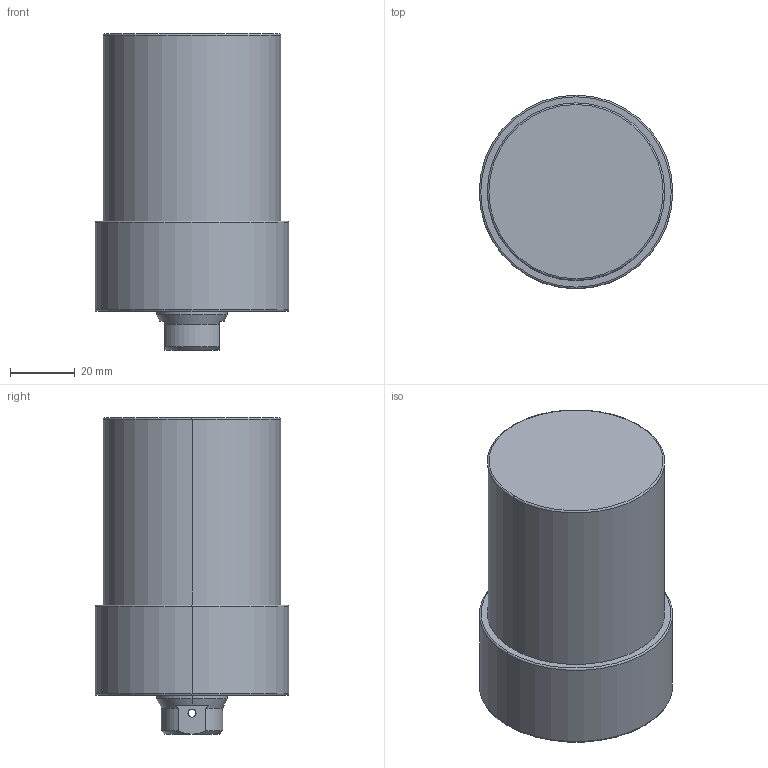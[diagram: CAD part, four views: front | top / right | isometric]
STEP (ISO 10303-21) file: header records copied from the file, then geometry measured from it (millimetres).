
FILE_DESCRIPTION (( 'STEP AP203' ), '1' );
FILE_NAME ('CLLU055-CB-045.STEP', '2017-05-12T11:22:22', ( '' ), ( '' ), 'SwSTEP 2.0', 'SolidWorks 2015', '' );
FILE_SCHEMA (( 'CONFIG_CONTROL_DESIGN' ));
Length unit declared in the file: millimetre
Products named in the file (1): CLLU055-CB-045
Bounding box: 60 x 60 x 98 mm (x, y, z)
Volume: 217256.9 mm3; surface area: 23392.8 mm2
Topology: 1 solids, 1 shells, 66 faces, 152 edges, 85 vertices
Faces by surface type: cylinder 26, cone 24, plane 10, torus 6
Entity records: 1971 total; most frequent: CARTESIAN_POINT 414, DIRECTION 340, ORIENTED_EDGE 284, AXIS2_PLACEMENT_3D 143, EDGE_CURVE 142, VERTEX_POINT 85, EDGE_LOOP 77, CIRCLE 76
